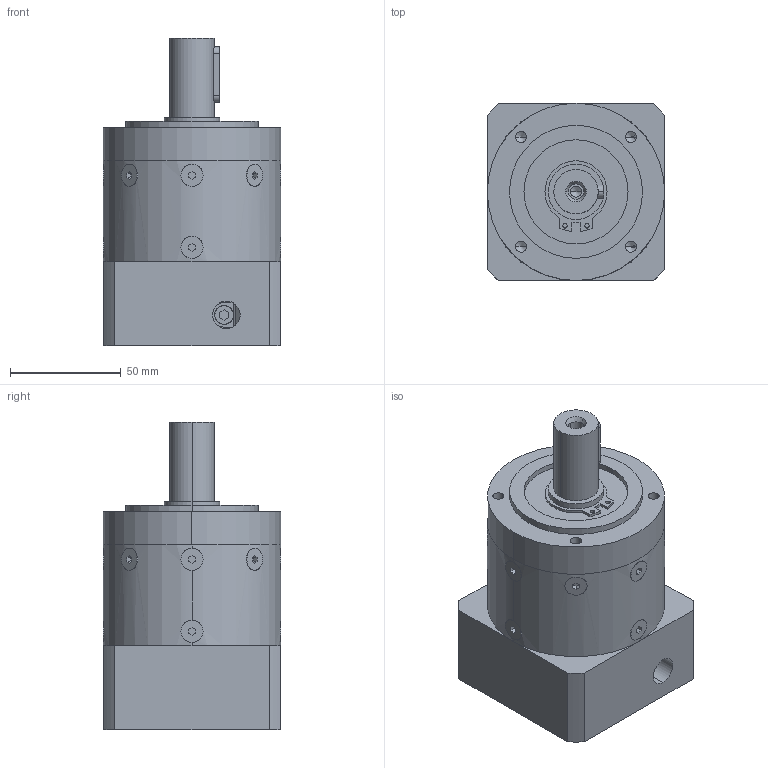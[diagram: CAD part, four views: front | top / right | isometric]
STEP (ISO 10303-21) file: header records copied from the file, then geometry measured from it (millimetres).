
FILE_DESCRIPTION (( 'STEP AP214' ), '1' );
FILE_NAME ('PRL80-L1 目录1.STEP', '2020-09-14T03:14:45', ( '微软用户' ), ( '微软中国' ), 'SwSTEP 2.0', 'SolidWorks 2014', '' );
FILE_SCHEMA (( 'AUTOMOTIVE_DESIGN' ));
Length unit declared in the file: millimetre
Products named in the file (15): PLE80 奻屳唳; PRL80-L1 Ŀ¼1; 粣創-6006 30x55x13; 邧埴瑩 6x6x25; PLE80 蟀諉啣-梓袧; 囀鞠褒蹟佪-M5℅20; PLE80 内齿圈-B版_一级内齿圈; PLE80 薊粣ん_D7-19 梓袧
Assembly tree (7 placements, depth 2):
  PLE80 奻屳唳
  PRL80-L1 Ŀ¼1
    PLE80 奻屳唳
    PLE80 薊粣ん_D7-19 梓袧
    PLE80 内齿圈-B版_一级内齿圈
    囀鞠褒蹟佪-M5℅20
    PLE80 蟀諉啣-梓袧
    邧埴瑩 6x6x25
    粣創-6006 30x55x13
  粣創-6006 30x55x13
  邧埴瑩 6x6x25
  PLE80 蟀諉啣-梓袧
Bounding box: 80.1 x 80.1 x 139 mm (x, y, z)
Volume: 483264.8 mm3; surface area: 107336.8 mm2
Topology: 7 solids, 7 shells, 535 faces, 1432 edges, 925 vertices
Faces by surface type: plane 199, cylinder 168, bspline 136, cone 32
Entity records: 28626 total; most frequent: CARTESIAN_POINT 9899, ORIENTED_EDGE 2812, DIRECTION 2302, EDGE_CURVE 1406, VERTEX_POINT 925, AXIS2_PLACEMENT_3D 896, EDGE_LOOP 631, UNCERTAINTY_MEASURE_WITH_UNIT 557
